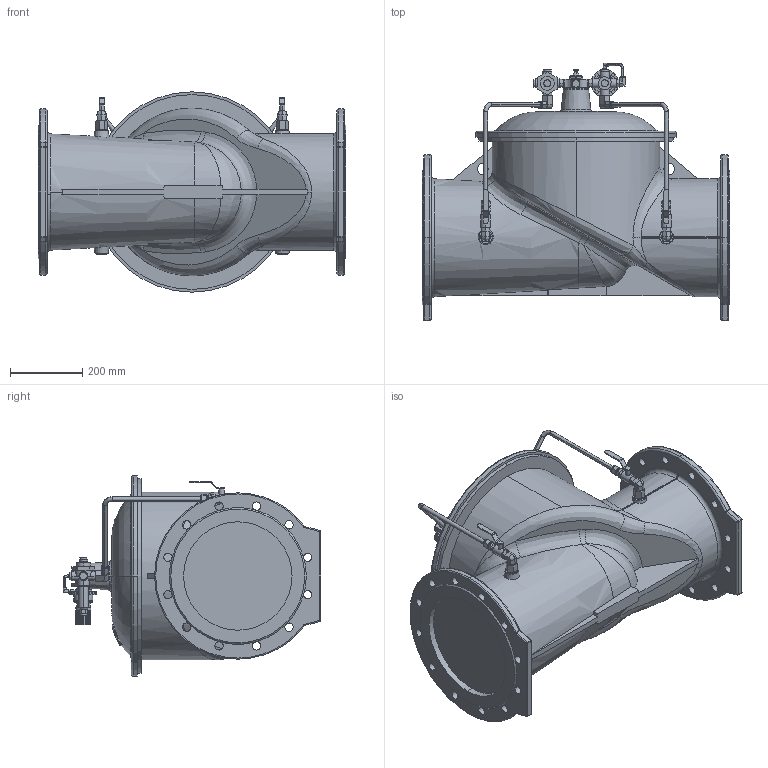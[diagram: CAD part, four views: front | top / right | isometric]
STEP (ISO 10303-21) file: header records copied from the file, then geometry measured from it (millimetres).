
FILE_DESCRIPTION (( 'STEP AP203' ), '1' );
FILE_NAME ('O_859_00_DN300_0XXXX00_REV01.step', '2020-11-17T12:04:22', ( '' ), ( '' ), 'SwSTEP 2.0', 'SolidWorks 2019', '' );
FILE_SCHEMA (( 'CONFIG_CONTROL_DESIGN' ));
Length unit declared in the file: millimetre
Products named in the file (1): O_859_00_DN300_0XXXX00_REV01
Bounding box: 850 x 713.33 x 554 mm (x, y, z)
Volume: 105624412.6 mm3; surface area: 2142673.3 mm2
Topology: 1 solids, 1 shells, 1065 faces, 2710 edges, 1693 vertices
Faces by surface type: plane 558, cylinder 344, cone 68, torus 57, bspline 34, sphere 4
Entity records: 39769 total; most frequent: CARTESIAN_POINT 14074, ORIENTED_EDGE 5404, DIRECTION 5372, EDGE_CURVE 2702, AXIS2_PLACEMENT_3D 2028, VERTEX_POINT 1693, LINE 1316, VECTOR 1316
